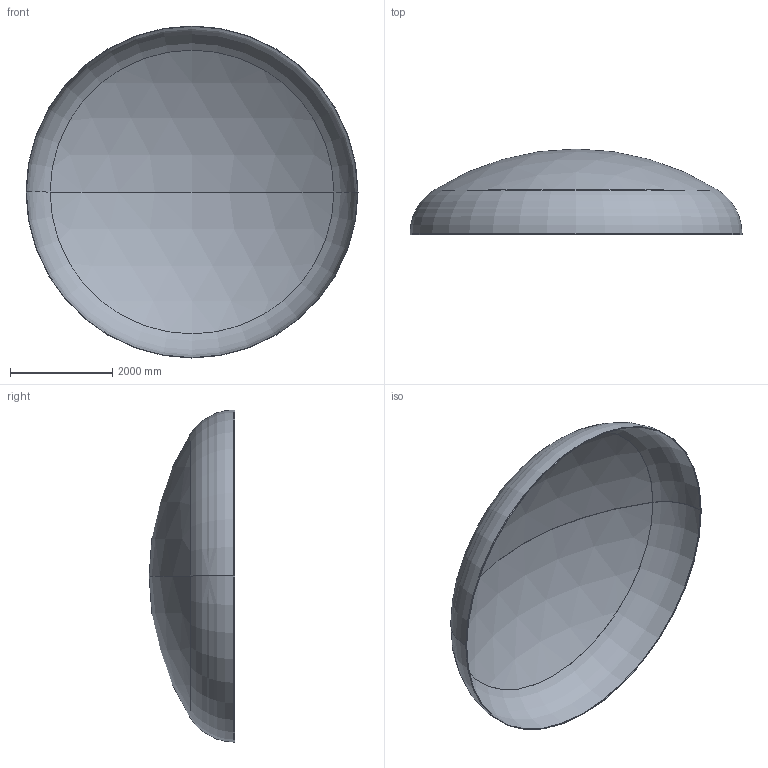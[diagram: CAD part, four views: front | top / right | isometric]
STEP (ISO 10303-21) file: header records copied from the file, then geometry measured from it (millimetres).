
FILE_DESCRIPTION (( 'STEP AP203' ), '1' );
FILE_NAME ('DIN 28013 Korbbogenform_-_Boden DIN 28013 - 6500 x 20 - I - s=6.step', '2016-07-04T10:39:31', ( '' ), ( '' ), 'SwSTEP 2.0', 'SolidWorks 2013', '' );
FILE_SCHEMA (( 'CONFIG_CONTROL_DESIGN' ));
Length unit declared in the file: millimetre
Products named in the file (1): DIN 28013 Korbbogenform_-_Boden DIN 28013 - 6500 x 20 - I - s=6
Bounding box: 6500 x 1675.72 x 6500 mm (x, y, z)
Volume: 277839421.9 mm3; surface area: 92735586.2 mm2
Topology: 1 solids, 1 shells, 13 faces, 24 edges, 14 vertices
Faces by surface type: torus 4, cylinder 4, sphere 4, plane 1
Entity records: 407 total; most frequent: DIRECTION 72, CARTESIAN_POINT 52, ORIENTED_EDGE 48, AXIS2_PLACEMENT_3D 34, EDGE_CURVE 24, CIRCLE 20, EDGE_LOOP 14, VERTEX_POINT 14
